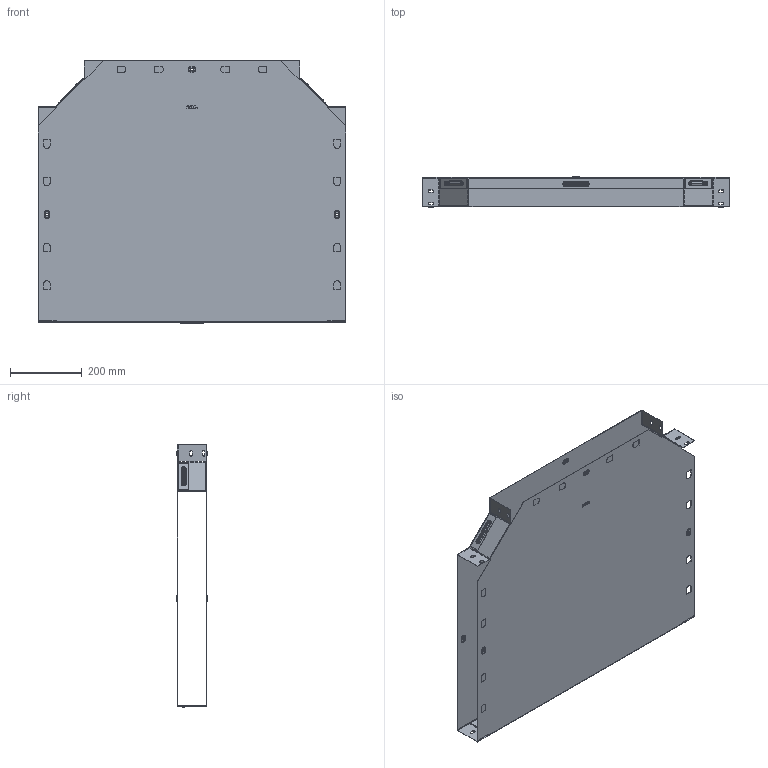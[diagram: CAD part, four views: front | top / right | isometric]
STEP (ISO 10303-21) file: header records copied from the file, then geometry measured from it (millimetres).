
FILE_DESCRIPTION (( 'STEP AP214' ), '1' );
FILE_NAME ('t8060008_捘.STEP', '2019-06-10T08:09:14', ( '砐錪賧瘔蠈錪 Windows' ), ( '' ), 'SwSTEP 2.0', 'SolidWorks 2018', '' );
FILE_SCHEMA (( 'AUTOMOTIVE_DESIGN' ));
Length unit declared in the file: millimetre
Products named in the file (1): t8060008_捘
Bounding box: 856.4 x 83.8 x 731 mm (x, y, z)
Volume: 1047595.2 mm3; surface area: 2626661.8 mm2
Topology: 2 solids, 2 shells, 768 faces, 2196 edges, 1428 vertices
Faces by surface type: plane 430, cylinder 224, torus 96, bspline 18
Entity records: 26220 total; most frequent: CARTESIAN_POINT 5488, ORIENTED_EDGE 4392, DIRECTION 4254, EDGE_CURVE 2196, VECTOR 1568, LINE 1568, VERTEX_POINT 1428, AXIS2_PLACEMENT_3D 1343
